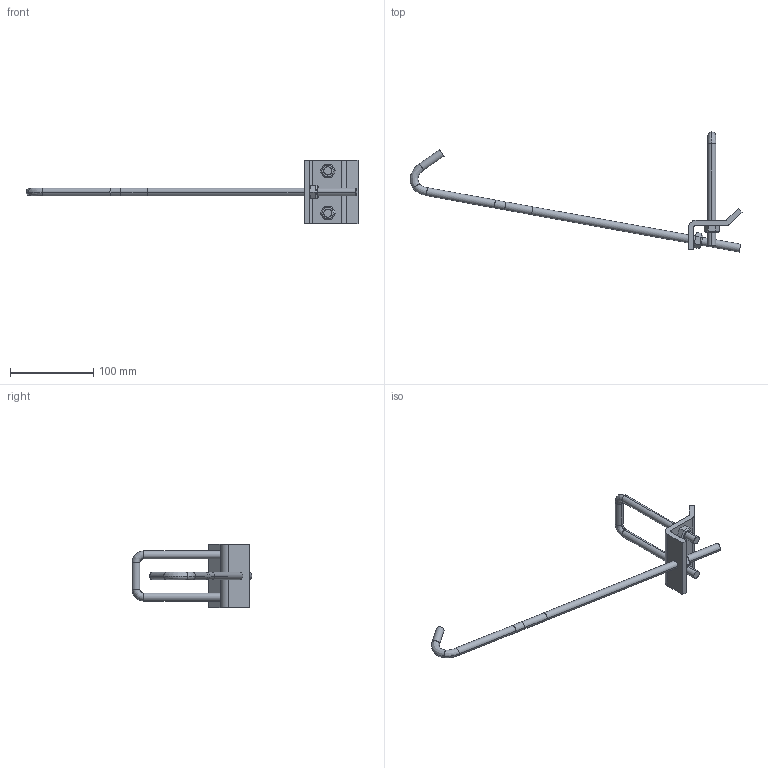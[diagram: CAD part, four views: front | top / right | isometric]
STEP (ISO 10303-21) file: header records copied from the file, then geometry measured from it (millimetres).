
FILE_DESCRIPTION(('TurboCAD Mac Pro'),'Build 980');
FILE_NAME('P2867A-15.stp',' ',(''),(''),'ACIS Interop','IMSI','TurboCAD Mac Pro BY IMSI, INCORPORATED');
FILE_SCHEMA(('automotive_design'));
Length unit declared in the file: inch
Products named in the file (6): 1; 2; 3; 4; 5; 6
Bounding box: 399.58 x 144.4 x 76.2 mm (x, y, z)
Volume: 102765.4 mm3; surface area: 42479.4 mm2
Topology: 6 solids, 6 shells, 100 faces, 226 edges, 138 vertices
Faces by surface type: plane 56, bspline 24, cylinder 20
Entity records: 5640 total; most frequent: CARTESIAN_POINT 1602, ORIENTED_EDGE 452, DIRECTION 382, STYLED_ITEM 304, PRESENTATION_STYLE_ASSIGNMENT 304, COLOUR_RGB 304, EDGE_CURVE 226, CURVE_STYLE 198
